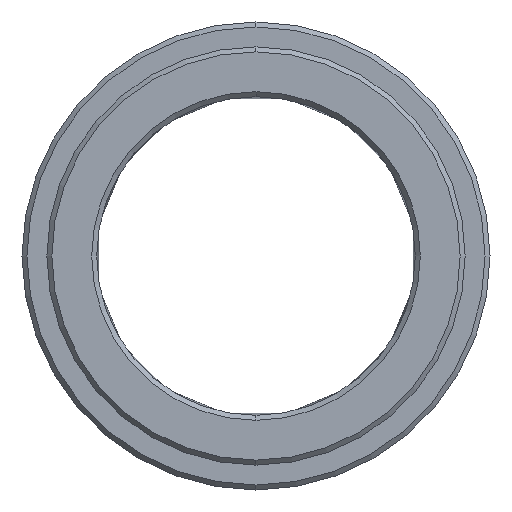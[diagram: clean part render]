
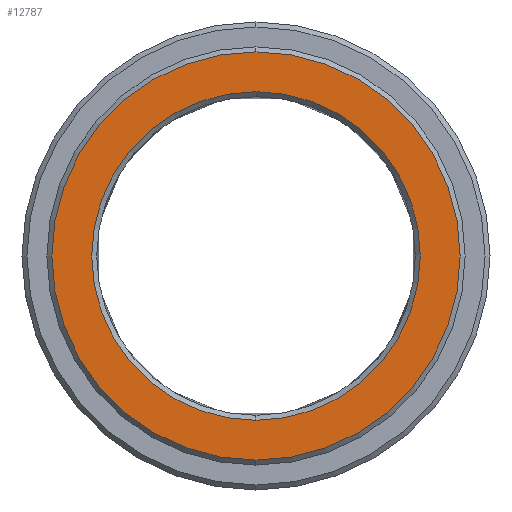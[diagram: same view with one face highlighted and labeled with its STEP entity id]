
A CAD part, left-side view. The second image highlights one B-rep face of the part: STEP entity #12787.
In plain terms, the highlighted planar face has unit normal (-1, 0, 0).
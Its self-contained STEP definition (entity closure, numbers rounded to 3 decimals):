
#8578=CARTESIAN_POINT('',(-8.,0.,0.));
#8579=DIRECTION('',(1.,0.,0.));
#8580=DIRECTION('',(0.,0.,-1.));
#8581=AXIS2_PLACEMENT_3D('',#8578,#8579,#8580);
#8583=CARTESIAN_POINT('',(-8.,0.,
0.));
#8584=DIRECTION('',(1.,0.,0.));
#8585=DIRECTION('',(0.,0.,1.));
#8586=AXIS2_PLACEMENT_3D('',#8583,#8584,#8585);
#8588=CARTESIAN_POINT('',(-8.,0.,0.));
#8589=DIRECTION('',(1.,0.,0.));
#8590=DIRECTION('',(0.,0.,1.));
#8591=AXIS2_PLACEMENT_3D('',#8588,#8589,#8590);
#8593=CARTESIAN_POINT('',(-8.,0.,
0.));
#8594=DIRECTION('',(1.,0.,0.));
#8595=DIRECTION('',(0.,0.,-1.));
#8596=AXIS2_PLACEMENT_3D('',#8593,#8594,#8595);
#9126=CARTESIAN_POINT('',(-8.,0.,16.5));
#9127=CARTESIAN_POINT('',(-8.,0.,-16.5));
#9128=VERTEX_POINT('',#9126);
#9129=VERTEX_POINT('',#9127);
#9134=CARTESIAN_POINT('',(-8.,0.,-20.5));
#9135=CARTESIAN_POINT('',(-8.,0.,20.5));
#9136=VERTEX_POINT('',#9134);
#9137=VERTEX_POINT('',#9135);
#12772=CARTESIAN_POINT('',(-8.,0.,0.));
#12773=DIRECTION('',(1.,0.,0.));
#12774=DIRECTION('',(0.,0.,1.));
#12775=AXIS2_PLACEMENT_3D('',#12772,#12773,#12774);
#12776=PLANE('',#12775);
#12777=ORIENTED_EDGE('',*,*,#12754,.T.);
#12778=ORIENTED_EDGE('',*,*,#12739,.T.);
#12779=EDGE_LOOP('',(#12777,#12778));
#12780=FACE_OUTER_BOUND('',#12779,.F.);
#12782=ORIENTED_EDGE('',*,*,#12781,.F.);
#12784=ORIENTED_EDGE('',*,*,#12783,.F.);
#12785=EDGE_LOOP('',(#12782,#12784));
#12786=FACE_BOUND('',#12785,.F.);
#12787=ADVANCED_FACE('',(#12780,#12786),#12776,.F.);
#8582=CIRCLE('',#8581,20.5);
#8587=CIRCLE('',#8586,20.5);
#8592=CIRCLE('',#8591,16.5);
#8597=CIRCLE('',#8596,16.5);
#12739=EDGE_CURVE('',#9137,#9136,#8587,.T.);
#12754=EDGE_CURVE('',#9136,#9137,#8582,.T.);
#12781=EDGE_CURVE('',#9128,#9129,#8592,.T.);
#12783=EDGE_CURVE('',#9129,#9128,#8597,.T.);
